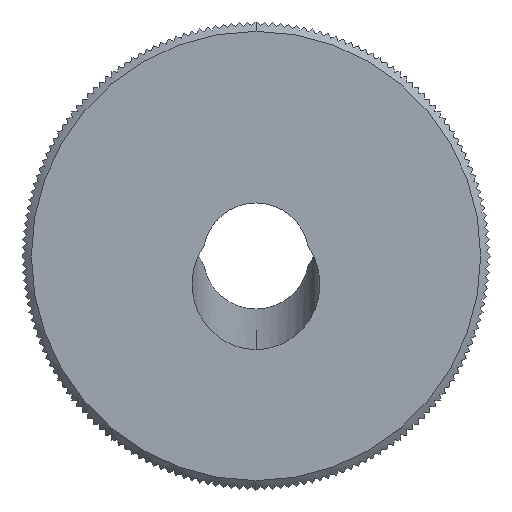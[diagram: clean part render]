
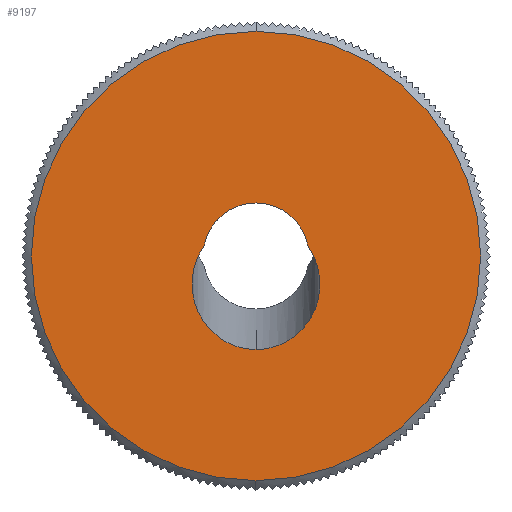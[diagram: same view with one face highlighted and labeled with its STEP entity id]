
A CAD part, left-side view. The second image highlights one B-rep face of the part: STEP entity #9197.
In plain terms, the highlighted planar face has unit normal (-1, 0, 0).
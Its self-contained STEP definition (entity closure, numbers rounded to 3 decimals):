
#421 = VERTEX_POINT ( 'NONE', #1486 ) ;
#427 = VERTEX_POINT ( 'NONE', #1460 ) ;
#1460 = CARTESIAN_POINT ( 'NONE',  ( -12., 0., -14.4 ) ) ;
#1486 = CARTESIAN_POINT ( 'NONE',  ( -12., 0., 14.4 ) ) ;
#5662 = FACE_BOUND ( 'NONE', #12831, .T. ) ;
#5663 = FACE_OUTER_BOUND ( 'NONE', #12786, .T. ) ;
#5698 = DIRECTION ( 'NONE',  ( 0., 0., -1. ) ) ;
#5699 = DIRECTION ( 'NONE',  ( 1., 0., 0. ) ) ;
#5700 = AXIS2_PLACEMENT_3D ( 'NONE', #5705, #5699, #5698 ) ;
#5705 = CARTESIAN_POINT ( 'NONE',  ( -12., 0., 0. ) ) ;
#5706 = PLANE ( 'NONE',  #5700 ) ;
#5807 = DIRECTION ( 'NONE',  ( 0., 0., -1. ) ) ;
#5808 = DIRECTION ( 'NONE',  ( -1., 0., 0. ) ) ;
#5809 = AXIS2_PLACEMENT_3D ( 'NONE', #5817, #5808, #5807 ) ;
#5810 = CIRCLE ( 'NONE', #5809, 14.4 ) ;
#5817 = CARTESIAN_POINT ( 'NONE',  ( -12., 0., 0. ) ) ;
#6155 = CARTESIAN_POINT ( 'NONE',  ( -12., 0., -5.996 ) ) ;
#6325 = CARTESIAN_POINT ( 'NONE',  ( -12., -3.342, 0.623 ) ) ;
#6355 = CARTESIAN_POINT ( 'NONE',  ( -12., 0., -5.996 ) ) ;
#6356 = CARTESIAN_POINT ( 'NONE',  ( -12., -3.8, -5.996 ) ) ;
#6357 = CARTESIAN_POINT ( 'NONE',  ( -12., -5.543, -2.544 ) ) ;
#6358 = CARTESIAN_POINT ( 'NONE',  ( -12., -3.342, 0.623 ) ) ;
#6359 =( BOUNDED_CURVE ( )  B_SPLINE_CURVE ( 3, ( #6358, #6357, #6356, #6355 ),
 .UNSPECIFIED., .F., .T. ) 
 B_SPLINE_CURVE_WITH_KNOTS ( ( 4, 4 ),
 ( 0.953, 3.142 ),
 .UNSPECIFIED. ) 
 CURVE ( )  GEOMETRIC_REPRESENTATION_ITEM ( )  RATIONAL_B_SPLINE_CURVE ( ( 1., 0.639, 0.639, 1. ) ) 
 REPRESENTATION_ITEM ( '' )  );
#6562 = CARTESIAN_POINT ( 'NONE',  ( -12., 3.342, 0.623 ) ) ;
#6597 = CARTESIAN_POINT ( 'NONE',  ( -12., 0., 3.4 ) ) ;
#6602 = DIRECTION ( 'NONE',  ( 0., 0., 1. ) ) ;
#6603 = DIRECTION ( 'NONE',  ( -1., 0., 0. ) ) ;
#6604 = CARTESIAN_POINT ( 'NONE',  ( -12., 0., 0. ) ) ;
#6605 = AXIS2_PLACEMENT_3D ( 'NONE', #6604, #6603, #6602 ) ;
#6606 = CIRCLE ( 'NONE', #6605, 3.4 ) ;
#9197 = ADVANCED_FACE ( 'NONE', ( #5662, #5663 ), #5706, .F. ) ;
#9259 = EDGE_CURVE ( 'NONE', #427, #421, #5810, .T. ) ;
#9261 = ORIENTED_EDGE ( 'NONE', *, *, #12387, .T. ) ;
#9266 = ORIENTED_EDGE ( 'NONE', *, *, #9259, .T. ) ;
#9460 = VERTEX_POINT ( 'NONE', #6155 ) ;
#9515 = VERTEX_POINT ( 'NONE', #6325 ) ;
#9543 = EDGE_CURVE ( 'NONE', #9515, #9460, #6359, .T. ) ;
#9633 = VERTEX_POINT ( 'NONE', #6562 ) ;
#9634 = EDGE_CURVE ( 'NONE', #9638, #9633, #6606, .T. ) ;
#9638 = VERTEX_POINT ( 'NONE', #6597 ) ;
#11640 = DIRECTION ( 'NONE',  ( 0., 0., -1. ) ) ;
#11641 = DIRECTION ( 'NONE',  ( -1., 0., 0. ) ) ;
#11642 = CARTESIAN_POINT ( 'NONE',  ( -12., 0., 0. ) ) ;
#11643 = AXIS2_PLACEMENT_3D ( 'NONE', #11642, #11641, #11640 ) ;
#11647 = CIRCLE ( 'NONE', #11643, 14.4 ) ;
#11896 =( BOUNDED_CURVE ( )  B_SPLINE_CURVE ( 3, ( #11938, #11937, #11936, #11935 ),
 .UNSPECIFIED., .F., .T. ) 
 B_SPLINE_CURVE_WITH_KNOTS ( ( 4, 4 ),
 ( 3.142, 5.33 ),
 .UNSPECIFIED. ) 
 CURVE ( )  GEOMETRIC_REPRESENTATION_ITEM ( )  RATIONAL_B_SPLINE_CURVE ( ( 1., 0.639, 0.639, 1. ) ) 
 REPRESENTATION_ITEM ( '' )  );
#11935 = CARTESIAN_POINT ( 'NONE',  ( -12., 3.342, 0.623 ) ) ;
#11936 = CARTESIAN_POINT ( 'NONE',  ( -12., 5.543, -2.544 ) ) ;
#11937 = CARTESIAN_POINT ( 'NONE',  ( -12., 3.8, -5.996 ) ) ;
#11938 = CARTESIAN_POINT ( 'NONE',  ( -12., 0., -5.996 ) ) ;
#12090 = DIRECTION ( 'NONE',  ( 0., 0., 1. ) ) ;
#12091 = DIRECTION ( 'NONE',  ( -1., 0., 0. ) ) ;
#12092 = AXIS2_PLACEMENT_3D ( 'NONE', #12100, #12091, #12090 ) ;
#12093 = CIRCLE ( 'NONE', #12092, 3.4 ) ;
#12100 = CARTESIAN_POINT ( 'NONE',  ( -12., 0., 0. ) ) ;
#12387 = EDGE_CURVE ( 'NONE', #421, #427, #11647, .T. ) ;
#12786 = EDGE_LOOP ( 'NONE', ( #9266, #9261 ) ) ;
#12831 = EDGE_LOOP ( 'NONE', ( #12937, #12936, #12942, #12833 ) ) ;
#12833 = ORIENTED_EDGE ( 'NONE', *, *, #9634, .F. ) ;
#12837 = EDGE_CURVE ( 'NONE', #9460, #9633, #11896, .T. ) ;
#12936 = ORIENTED_EDGE ( 'NONE', *, *, #9543, .T. ) ;
#12937 = ORIENTED_EDGE ( 'NONE', *, *, #12939, .F. ) ;
#12939 = EDGE_CURVE ( 'NONE', #9515, #9638, #12093, .T. ) ;
#12942 = ORIENTED_EDGE ( 'NONE', *, *, #12837, .T. ) ;
